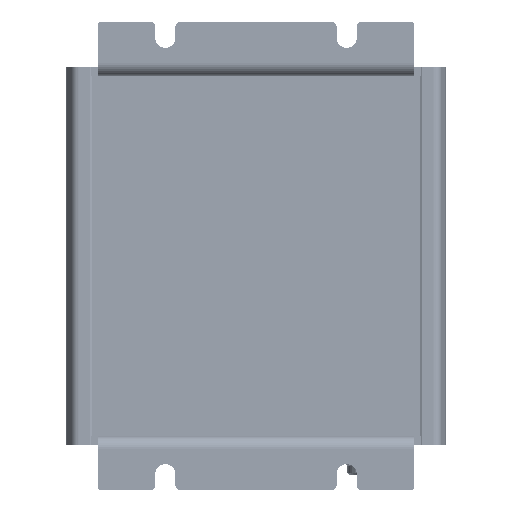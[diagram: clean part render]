
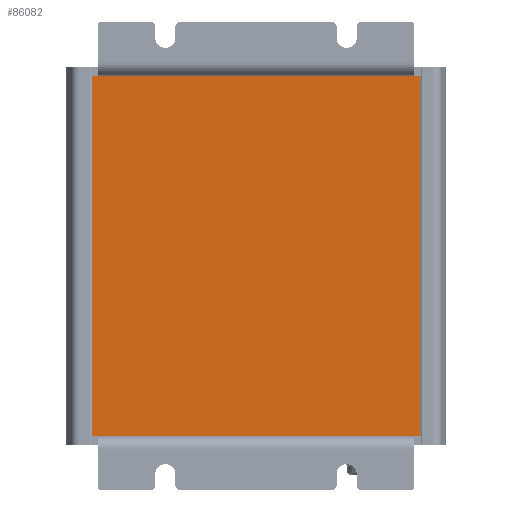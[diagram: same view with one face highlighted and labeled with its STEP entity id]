
A CAD part, front view. The second image highlights one B-rep face of the part: STEP entity #86082.
In plain terms, the highlighted planar face has unit normal (0, -1, 0).
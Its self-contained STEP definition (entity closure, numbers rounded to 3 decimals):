
#7779 = ORIENTED_EDGE ( 'NONE', *, *, #116372, .T. ) ;
#8125 = CARTESIAN_POINT ( 'NONE',  ( -18.941, -10.735, 0. ) ) ;
#8970 = EDGE_LOOP ( 'NONE', ( #7779, #82506, #85645, #80825 ) ) ;
#10691 = VERTEX_POINT ( 'NONE', #8125 ) ;
#10737 = VECTOR ( 'NONE', #157539, 1000. ) ;
#14096 = DIRECTION ( 'NONE',  ( 0., 0., -1. ) ) ;
#19399 = DIRECTION ( 'NONE',  ( -1., 0., 0. ) ) ;
#32940 = CARTESIAN_POINT ( 'NONE',  ( -18.941, -10.735, 0. ) ) ;
#33459 = PLANE ( 'NONE',  #180580 ) ;
#39487 = VERTEX_POINT ( 'NONE', #143963 ) ;
#42752 = CARTESIAN_POINT ( 'NONE',  ( 53.959, -10.735, 0. ) ) ;
#45761 = FACE_OUTER_BOUND ( 'NONE', #8970, .T. ) ;
#47258 = LINE ( 'NONE', #32940, #10737 ) ;
#56018 = EDGE_CURVE ( 'NONE', #10691, #91843, #177847, .T. ) ;
#56307 = DIRECTION ( 'NONE',  ( 1., 0., 0. ) ) ;
#59075 = LINE ( 'NONE', #42752, #115827 ) ;
#68290 = EDGE_CURVE ( 'NONE', #120468, #10691, #47258, .T. ) ;
#80825 = ORIENTED_EDGE ( 'NONE', *, *, #56018, .T. ) ;
#82506 = ORIENTED_EDGE ( 'NONE', *, *, #101897, .T. ) ;
#85645 = ORIENTED_EDGE ( 'NONE', *, *, #68290, .T. ) ;
#86082 = ADVANCED_FACE ( 'NONE', ( #45761 ), #33459, .T. ) ;
#90154 = VECTOR ( 'NONE', #19399, 1000. ) ;
#91843 = VERTEX_POINT ( 'NONE', #104604 ) ;
#101897 = EDGE_CURVE ( 'NONE', #39487, #120468, #112350, .T. ) ;
#104604 = CARTESIAN_POINT ( 'NONE',  ( 53.959, -10.735, 0. ) ) ;
#105036 = DIRECTION ( 'NONE',  ( 0., 0., 1. ) ) ;
#112350 = LINE ( 'NONE', #113346, #90154 ) ;
#113346 = CARTESIAN_POINT ( 'NONE',  ( -18.941, -10.735, 80. ) ) ;
#115827 = VECTOR ( 'NONE', #105036, 1000. ) ;
#116372 = EDGE_CURVE ( 'NONE', #91843, #39487, #59075, .T. ) ;
#120468 = VERTEX_POINT ( 'NONE', #167485 ) ;
#143963 = CARTESIAN_POINT ( 'NONE',  ( 53.959, -10.735, 80. ) ) ;
#146213 = CARTESIAN_POINT ( 'NONE',  ( -18.941, -10.735, 0. ) ) ;
#157539 = DIRECTION ( 'NONE',  ( 0., 0., -1. ) ) ;
#158051 = CARTESIAN_POINT ( 'NONE',  ( -18.941, -10.735, 0. ) ) ;
#167485 = CARTESIAN_POINT ( 'NONE',  ( -18.941, -10.735, 80. ) ) ;
#170354 = DIRECTION ( 'NONE',  ( 0., -1., 0. ) ) ;
#177847 = LINE ( 'NONE', #146213, #178214 ) ;
#178214 = VECTOR ( 'NONE', #56307, 1000. ) ;
#180580 = AXIS2_PLACEMENT_3D ( 'NONE', #158051, #170354, #14096 ) ;
